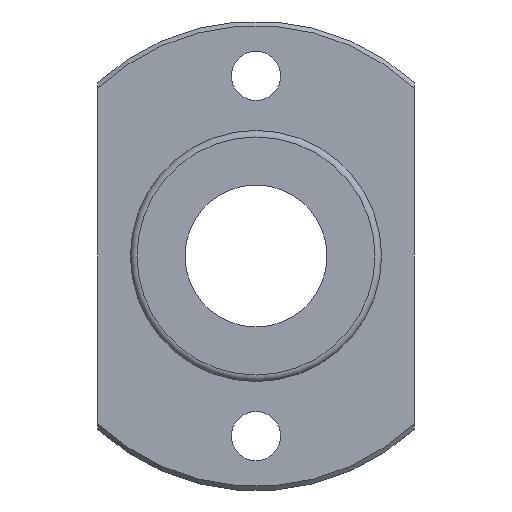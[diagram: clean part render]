
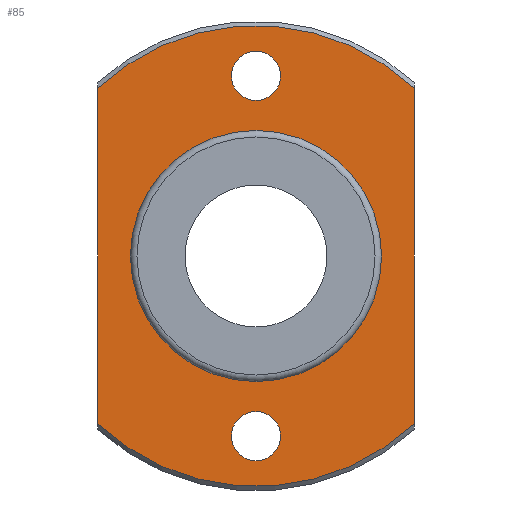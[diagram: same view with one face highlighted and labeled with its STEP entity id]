
A CAD part, left-side view. The second image highlights one B-rep face of the part: STEP entity #85.
In plain terms, the highlighted planar face has unit normal (-1, 0, 0).
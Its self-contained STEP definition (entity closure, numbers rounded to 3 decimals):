
#85=ADVANCED_FACE('',(#133,#134,#135,#136),#137,.T.);
#133=FACE_BOUND('',#210,.T.);
#134=FACE_BOUND('',#211,.T.);
#135=FACE_BOUND('',#212,.T.);
#136=FACE_OUTER_BOUND('',#213,.T.);
#137=PLANE('',#214);
#210=EDGE_LOOP('',(#307));
#211=EDGE_LOOP('',(#308));
#212=EDGE_LOOP('',(#309));
#213=EDGE_LOOP('',(#310,#311,#312,#313));
#214=AXIS2_PLACEMENT_3D('',#314,#315,#316);
#307=ORIENTED_EDGE('',*,*,#440,.F.);
#308=ORIENTED_EDGE('',*,*,#441,.T.);
#309=ORIENTED_EDGE('',*,*,#429,.T.);
#310=ORIENTED_EDGE('',*,*,#442,.T.);
#311=ORIENTED_EDGE('',*,*,#443,.T.);
#312=ORIENTED_EDGE('',*,*,#444,.T.);
#313=ORIENTED_EDGE('',*,*,#445,.T.);
#314=CARTESIAN_POINT('',(-6.0,16.125,0.0));
#315=DIRECTION('',(-1.0,0.0,0.));
#316=DIRECTION('',(0.,0.0,1.0));
#429=EDGE_CURVE('',#476,#476,#477,.T.);
#440=EDGE_CURVE('',#498,#498,#499,.T.);
#441=EDGE_CURVE('',#500,#500,#501,.T.);
#442=EDGE_CURVE('',#502,#503,#504,.T.);
#443=EDGE_CURVE('',#503,#505,#506,.T.);
#444=EDGE_CURVE('',#505,#507,#508,.T.);
#445=EDGE_CURVE('',#507,#502,#509,.T.);
#476=VERTEX_POINT('',#556);
#477=CIRCLE('',#557,2.25);
#498=VERTEX_POINT('',#578);
#499=CIRCLE('',#579,11.15);
#500=VERTEX_POINT('',#580);
#501=CIRCLE('',#581,2.25);
#502=VERTEX_POINT('',#582);
#503=VERTEX_POINT('',#583);
#504=CIRCLE('',#584,21.1);
#505=VERTEX_POINT('',#585);
#506=LINE('',#586,#587);
#507=VERTEX_POINT('',#588);
#508=CIRCLE('',#589,21.1);
#509=LINE('',#590,#591);
#556=CARTESIAN_POINT('',(-6.0,0.0,-14.25));
#557=AXIS2_PLACEMENT_3D('',#671,#672,#673);
#578=CARTESIAN_POINT('',(-6.0,11.15,0.0));
#579=AXIS2_PLACEMENT_3D('',#704,#705,#706);
#580=CARTESIAN_POINT('',(-6.0,0.0,18.75));
#581=AXIS2_PLACEMENT_3D('',#707,#708,#709);
#582=CARTESIAN_POINT('',(-6.0,14.5,-15.328));
#583=CARTESIAN_POINT('',(-6.0,-14.5,-15.328));
#584=AXIS2_PLACEMENT_3D('',#710,#711,#712);
#585=CARTESIAN_POINT('',(-6.0,-14.5,15.328));
#586=CARTESIAN_POINT('',(-6.0,-14.5,0.0));
#587=VECTOR('',#713,1.0);
#588=CARTESIAN_POINT('',(-6.0,14.5,15.328));
#589=AXIS2_PLACEMENT_3D('',#714,#715,#716);
#590=CARTESIAN_POINT('',(-6.0,14.5,0.0));
#591=VECTOR('',#717,1.0);
#671=CARTESIAN_POINT('',(-6.0,0.0,-16.5));
#672=DIRECTION('',(1.0,0.0,0.));
#673=DIRECTION('',(0.,0.0,-1.0));
#704=CARTESIAN_POINT('',(-6.0,0.0,0.0));
#705=DIRECTION('',(-1.0,0.0,0.));
#706=DIRECTION('',(0.0,1.0,0.0));
#707=CARTESIAN_POINT('',(-6.0,0.0,16.5));
#708=DIRECTION('',(1.0,0.0,0.));
#709=DIRECTION('',(0.,0.0,-1.0));
#710=CARTESIAN_POINT('',(-6.0,0.0,0.0));
#711=DIRECTION('',(-1.0,0.0,0.));
#712=DIRECTION('',(0.0,1.0,0.0));
#713=DIRECTION('',(0.,0.0,1.0));
#714=CARTESIAN_POINT('',(-6.0,0.0,0.0));
#715=DIRECTION('',(-1.0,0.0,0.));
#716=DIRECTION('',(0.0,1.0,0.0));
#717=DIRECTION('',(0.,0.0,-1.0));
